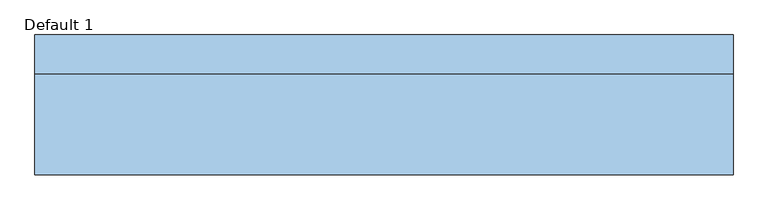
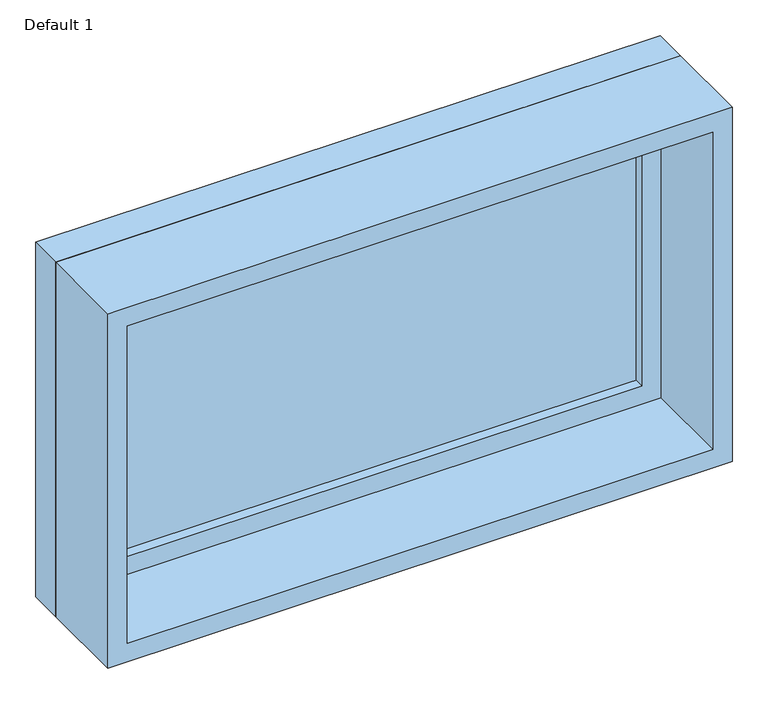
"""IFC4 building model written with IfcOpenShell, lengths in millimetres: window geometry, Planitar-Fixed : Default 1."""

from ifc_helpers import new_model, si_unit, frame, origin, place, context, project, spatial, polyline, outline, extrude, source, transform, mapped, element, save


def default_1_5ed156b9(model_context):
    return source(origin(), model_context, "Body", "SweptSolid", [
        extrude(outline(polyline([(1505.0, -489.0), (933.4, -489.0), (933.4, 489.0), (1505.0, 489.0), (1505.0, -489.0)]), holes=[polyline([(1461.0, -445.0), (1461.0, 445.0), (977.4, 445.0), (977.4, -445.0), (1461.0, -445.0)])]), frame((0.0, 57.9, 0.0), z_axis=(0.0, 1.0, 0.0), x_axis=(0.0, 0.0, 1.0)), (0.0, 0.0, 1.0), 44.0),
        extrude(outline(polyline([(1524.0, -508.0), (914.4, -508.0), (914.4, 508.0), (1524.0, 508.0), (1524.0, -508.0)]), holes=[polyline([(1505.0, -489.0), (1505.0, 489.0), (933.4, 489.0), (933.4, -489.0), (1505.0, -489.0)])]), frame((0.0, 57.9, 0.0), z_axis=(0.0, 1.0, 0.0), x_axis=(0.0, 0.0, 1.0)), (0.0, 0.0, 1.0), 56.7),
        extrude(outline(polyline([(1524.0, -508.0), (914.4, -508.0), (914.4, 508.0), (1524.0, 508.0), (1524.0, -508.0)]), holes=[polyline([(1492.0, -476.0), (1492.0, 476.0), (946.4, 476.0), (946.4, -476.0), (1492.0, -476.0)])]), frame((0.0, -88.6, 0.0), z_axis=(0.0, 1.0, 0.0), x_axis=(0.0, 0.0, 1.0)), (0.0, 0.0, 1.0), 146.5),
        extrude(outline(polyline([(-445.0, 85.9), (445.0, 85.9), (445.0, 73.9), (-445.0, 73.9), (-445.0, 85.9)])), frame((0.0, 0.0, 977.4), z_axis=(0.0, 0.0, 1.0), x_axis=(1.0, 0.0, 0.0)), (0.0, 0.0, 1.0), 483.6),
    ])


if __name__ == "__main__":
    model = new_model("IFC4")
    model_context = context("Model", 3, world=origin())
    ifc_project = project(units=[si_unit("LENGTHUNIT", "METRE", prefix="MILLI")], contexts=[model_context])
    site = spatial("IfcSite", under=ifc_project)
    building = spatial("IfcBuilding", under=site)
    placement = place(None, origin())
    default_1_shape = default_1_5ed156b9(model_context)
    element("IfcWindow", 1, ObjectType="Planitar-Fixed : Default 1", at=placement, inside=building, context=model_context, shape_type="MappedRepresentation", body=[
        mapped(default_1_shape, transform((0.0, 0.0, 0.0), x_axis=(1.0, 0.0, 0.0), y_axis=(0.0, 1.0, 0.0), z_axis=(0.0, 0.0, 1.0))),
    ])
    save(model, "model.ifc")
